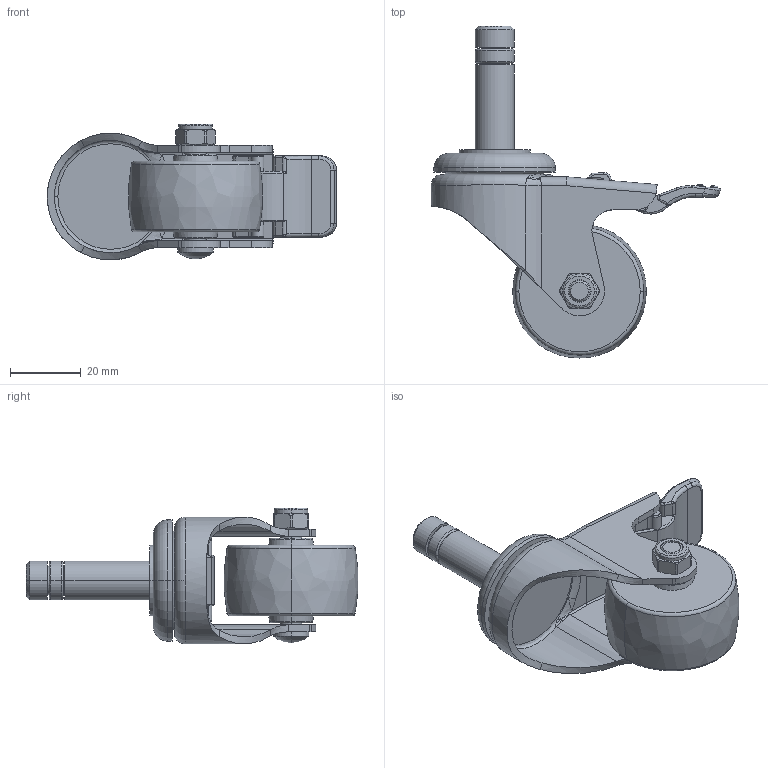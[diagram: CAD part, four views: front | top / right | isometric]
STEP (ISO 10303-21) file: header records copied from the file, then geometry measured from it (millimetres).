
FILE_DESCRIPTION((''),'2;1');
FILE_NAME('261115-2615-83_ASM','2019-12-13T',('L'),(''),'PRO/ENGINEER BY PARAMETRIC TECHNOLOGY CORPORATION, 2010280','PRO/ENGINEER BY PARAMETRIC TECHNOLOGY CORPORATION, 2010280','');
FILE_SCHEMA(('CONFIG_CONTROL_DESIGN'));
Length unit declared in the file: millimetre
Products named in the file (6): 261615; 2615-83; 2610-020; 2610-031; 2600-512; 261115-2615-83_ASM
Assembly tree (5 placements, depth 2):
  261115-2615-83_ASM
    261615
    2615-83
    2610-020
    2610-031
    2600-512
Bounding box: 81.87 x 93.9 x 38.43 mm (x, y, z)
Volume: 42094.3 mm3; surface area: 20106.2 mm2
Topology: 5 solids, 5 shells, 330 faces, 780 edges, 469 vertices
Faces by surface type: cylinder 118, plane 93, torus 56, bspline 39, cone 22, sphere 2
Entity records: 11921 total; most frequent: CARTESIAN_POINT 4320, DIRECTION 1612, ORIENTED_EDGE 1548, EDGE_CURVE 774, AXIS2_PLACEMENT_3D 653, VERTEX_POINT 469, EDGE_LOOP 355, CIRCLE 351
